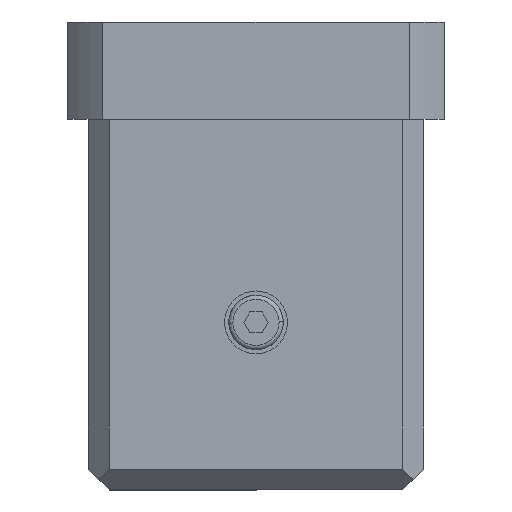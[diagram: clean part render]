
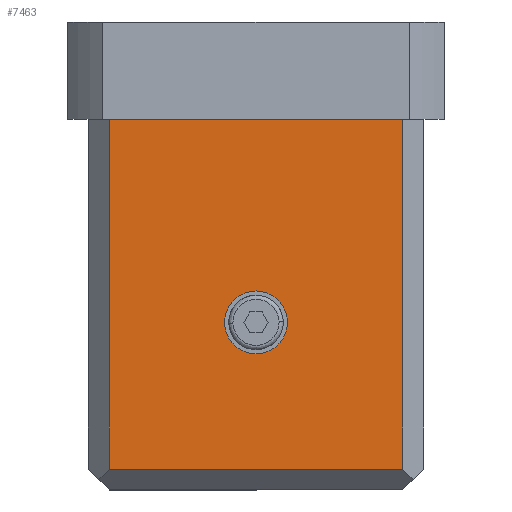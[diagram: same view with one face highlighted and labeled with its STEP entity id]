
A CAD part, left-side view. The second image highlights one B-rep face of the part: STEP entity #7463.
In plain terms, the highlighted planar face has unit normal (-1, 0, 0).
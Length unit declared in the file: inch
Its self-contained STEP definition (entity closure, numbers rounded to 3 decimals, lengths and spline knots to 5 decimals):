
#61 = ORIENTED_EDGE ( 'NONE', *, *, #2977, .F. ) ;
#67 = VERTEX_POINT ( 'NONE', #8147 ) ;
#167 = CARTESIAN_POINT ( 'NONE',  ( -7.24409, 1.37795, 0.16732 ) ) ;
#324 = FACE_BOUND ( 'NONE', #14181, .T. ) ;
#505 = VERTEX_POINT ( 'NONE', #1958 ) ;
#579 = AXIS2_PLACEMENT_3D ( 'NONE', #4295, #11511, #6443 ) ;
#697 = FACE_OUTER_BOUND ( 'NONE', #12167, .T. ) ;
#1698 = EDGE_CURVE ( 'NONE', #12039, #67, #12059, .T. ) ;
#1958 = CARTESIAN_POINT ( 'NONE',  ( -7.24409, -1.37795, 1.90551 ) ) ;
#2241 = LINE ( 'NONE', #13035, #5242 ) ;
#2254 = PLANE ( 'NONE',  #4257 ) ;
#2463 = EDGE_CURVE ( 'NONE', #2829, #505, #12024, .T. ) ;
#2778 = VECTOR ( 'NONE', #6989, 39.37008 ) ;
#2780 = ORIENTED_EDGE ( 'NONE', *, *, #6632, .T. ) ;
#2829 = VERTEX_POINT ( 'NONE', #14740 ) ;
#2977 = EDGE_CURVE ( 'NONE', #10930, #3206, #5793, .T. ) ;
#3206 = VERTEX_POINT ( 'NONE', #4790 ) ;
#3287 = AXIS2_PLACEMENT_3D ( 'NONE', #12526, #5700, #13695 ) ;
#3374 = DIRECTION ( 'NONE',  ( 0., 0., 1. ) ) ;
#4257 = AXIS2_PLACEMENT_3D ( 'NONE', #14749, #10206, #3374 ) ;
#4295 = CARTESIAN_POINT ( 'NONE',  ( -7.24409, 0., 0. ) ) ;
#4774 = CARTESIAN_POINT ( 'NONE',  ( -7.24409, -1.37795, 0. ) ) ;
#4790 = CARTESIAN_POINT ( 'NONE',  ( -7.24409, 1.37795, 1.90551 ) ) ;
#5055 = DIRECTION ( 'NONE',  ( 0., 1., 0. ) ) ;
#5110 = CARTESIAN_POINT ( 'NONE',  ( -7.24409, 1.37795, -1.37795 ) ) ;
#5242 = VECTOR ( 'NONE', #5055, 39.37008 ) ;
#5393 = ORIENTED_EDGE ( 'NONE', *, *, #1698, .T. ) ;
#5700 = DIRECTION ( 'NONE',  ( 1., 0., 0. ) ) ;
#5793 = LINE ( 'NONE', #167, #2778 ) ;
#6070 = LINE ( 'NONE', #13071, #11420 ) ;
#6443 = DIRECTION ( 'NONE',  ( 0., 0., 1. ) ) ;
#6632 = EDGE_CURVE ( 'NONE', #10930, #2829, #6070, .T. ) ;
#6989 = DIRECTION ( 'NONE',  ( 0., 0., 1. ) ) ;
#7463 = ADVANCED_FACE ( 'NONE', ( #324, #697 ), #2254, .T. ) ;
#8147 = CARTESIAN_POINT ( 'NONE',  ( -7.24409, 0., 0.29528 ) ) ;
#8518 = DIRECTION ( 'NONE',  ( 0., -1., 0. ) ) ;
#8894 = EDGE_CURVE ( 'NONE', #505, #3206, #2241, .T. ) ;
#9454 = ORIENTED_EDGE ( 'NONE', *, *, #10467, .T. ) ;
#10206 = DIRECTION ( 'NONE',  ( -1., 0., 0. ) ) ;
#10467 = EDGE_CURVE ( 'NONE', #67, #12039, #13564, .T. ) ;
#10921 = CARTESIAN_POINT ( 'NONE',  ( -7.24409, 0., -0.29528 ) ) ;
#10930 = VERTEX_POINT ( 'NONE', #5110 ) ;
#11420 = VECTOR ( 'NONE', #8518, 39.37008 ) ;
#11511 = DIRECTION ( 'NONE',  ( 1., 0., 0. ) ) ;
#11593 = DIRECTION ( 'NONE',  ( 0., 0., 1. ) ) ;
#12024 = LINE ( 'NONE', #4774, #14731 ) ;
#12039 = VERTEX_POINT ( 'NONE', #10921 ) ;
#12059 = CIRCLE ( 'NONE', #579, 0.29528 ) ;
#12167 = EDGE_LOOP ( 'NONE', ( #13656, #13908, #61, #2780 ) ) ;
#12526 = CARTESIAN_POINT ( 'NONE',  ( -7.24409, 0., 0. ) ) ;
#13035 = CARTESIAN_POINT ( 'NONE',  ( -7.24409, 0., 1.90551 ) ) ;
#13071 = CARTESIAN_POINT ( 'NONE',  ( -7.24409, 0., -1.37795 ) ) ;
#13564 = CIRCLE ( 'NONE', #3287, 0.29528 ) ;
#13656 = ORIENTED_EDGE ( 'NONE', *, *, #2463, .T. ) ;
#13695 = DIRECTION ( 'NONE',  ( 0., 0., 1. ) ) ;
#13908 = ORIENTED_EDGE ( 'NONE', *, *, #8894, .T. ) ;
#14181 = EDGE_LOOP ( 'NONE', ( #9454, #5393 ) ) ;
#14731 = VECTOR ( 'NONE', #11593, 39.37008 ) ;
#14740 = CARTESIAN_POINT ( 'NONE',  ( -7.24409, -1.37795, -1.37795 ) ) ;
#14749 = CARTESIAN_POINT ( 'NONE',  ( -7.24409, 0., 0. ) ) ;
